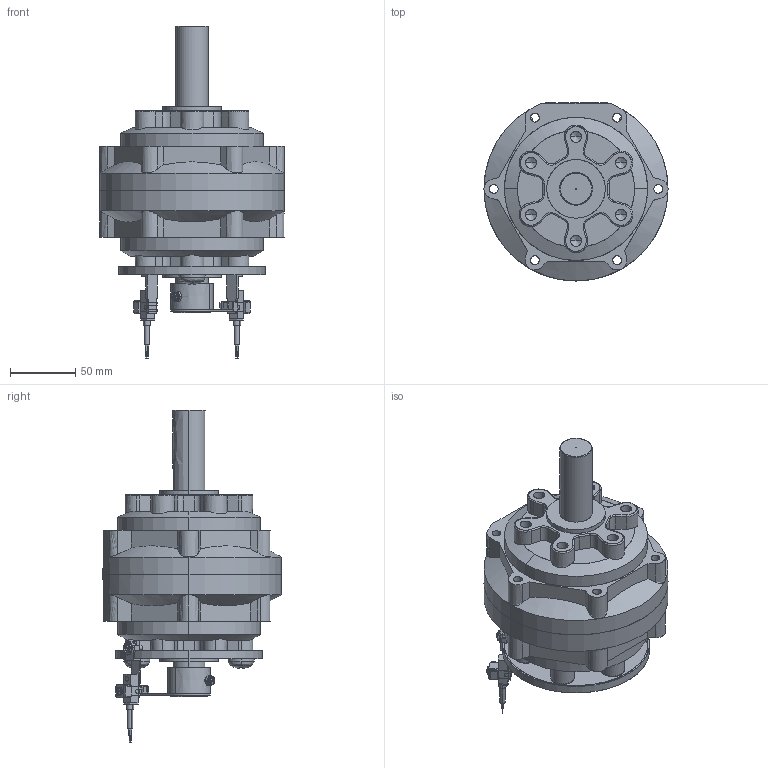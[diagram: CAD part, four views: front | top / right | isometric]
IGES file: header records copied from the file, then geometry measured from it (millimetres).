
Start section: SolidWorks IGES file using analytic representation for surfaces
Global section: file name: C:\Users\Chieh_Lu\Dropbox\¤u§@«Ç\PRN50-150-300-800\PRN300\PRN300\PRN300#-#-#-#-FM-#.IGS; native system: SolidWorks 2014; preprocessor: SolidWorks 2014; author: Chieh_Lu; date: 160115.004815; units: millimetre
Bounding box: 141.5 x 136.88 x 255.2 mm (x, y, z)
Surface area: 193187.3 mm2 (no closed solid volume)
Topology: 0 solids, 0 shells, 1072 faces, 12542 edges, 12492 vertices
Faces by surface type: bspline 601, revolution 471
